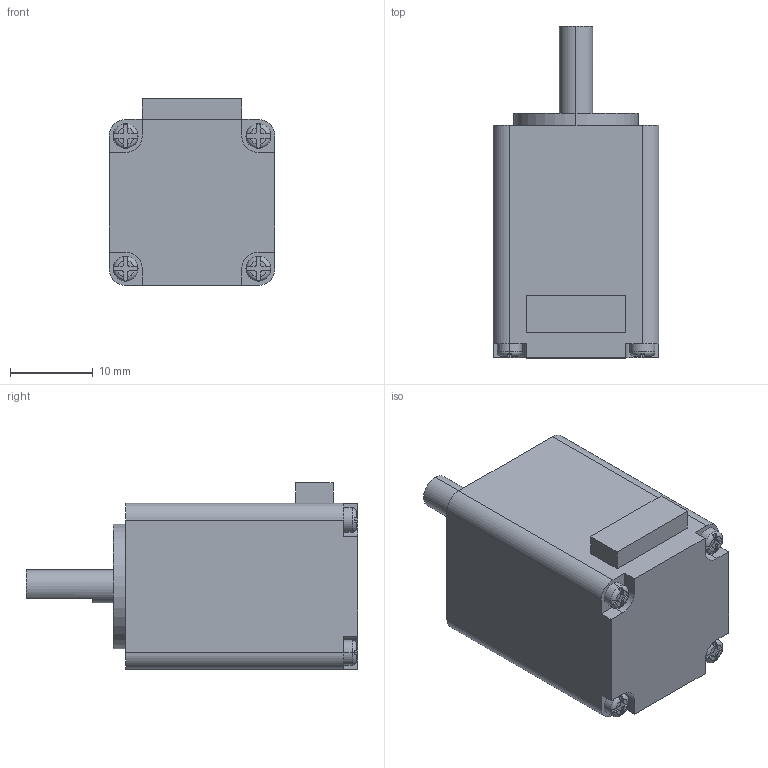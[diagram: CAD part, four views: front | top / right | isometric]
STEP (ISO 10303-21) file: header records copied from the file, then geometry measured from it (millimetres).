
FILE_DESCRIPTION (( 'STEP AP214' ), '1' );
FILE_NAME ('20A002.STEP', '2020-12-14T08:19:14', ( '' ), ( '' ), 'SwSTEP 2.0', 'SolidWorks 2020', '' );
FILE_SCHEMA (( 'AUTOMOTIVE_DESIGN' ));
Length unit declared in the file: millimetre
Products named in the file (3): 蹟佪; 20A002
Assembly tree (5 placements, depth 2):
  20A002
    20A002
    蹟佪  x4
Bounding box: 20 x 40 x 22.5 mm (x, y, z)
Volume: 11326.7 mm3; surface area: 4015.4 mm2
Topology: 6 solids, 6 shells, 139 faces, 364 edges, 240 vertices
Faces by surface type: plane 85, cylinder 46, torus 8
Entity records: 2529 total; most frequent: CARTESIAN_POINT 437, DIRECTION 414, ORIENTED_EDGE 380, EDGE_CURVE 190, AXIS2_PLACEMENT_3D 151, VERTEX_POINT 126, VECTOR 112, LINE 112
